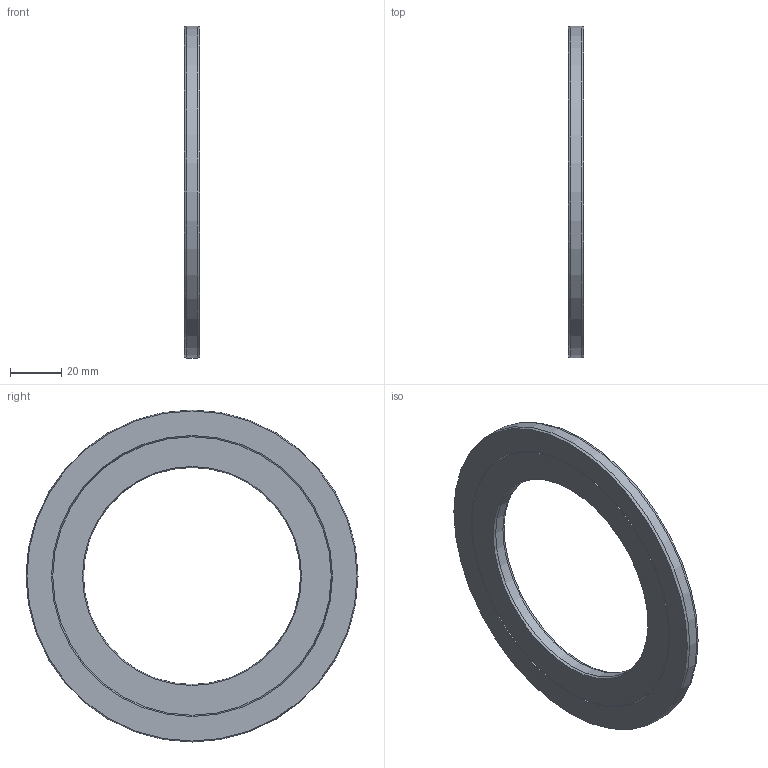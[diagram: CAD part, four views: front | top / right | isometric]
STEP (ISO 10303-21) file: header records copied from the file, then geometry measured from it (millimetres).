
FILE_DESCRIPTION(/* description */ (''),/* implementation_level */ '2;1');
FILE_NAME(/* name */ '307133 CF 6017 S10.stp',/* time_stamp */ '2016-12-16T11:27:09+01:00',/* author */ (''),/* organization */ (''),/* preprocessor_version */ 'ST-DEVELOPER v15',/* originating_system */ 'SIEMENS PLM Software NX 8.5',/* authorisation */ '');
FILE_SCHEMA (('CONFIG_CONTROL_DESIGN'));
Length unit declared in the file: millimetre
Products named in the file (1): ATE0000139_01
Bounding box: 6 x 130 x 130 mm (x, y, z)
Volume: 42937.9 mm3; surface area: 28149.9 mm2
Topology: 2 solids, 2 shells, 26 faces, 46 edges, 28 vertices
Faces by surface type: cone 10, plane 8, cylinder 8
Full cylindrical faces by diameter (mm): 85 x1, 97.5 x1, 98.5 x1, 100 x1, 101 x1, 109 x1, 110 x1, 130 x1
Entity records: 614 total; most frequent: DIRECTION 106, CARTESIAN_POINT 79, AXIS2_PLACEMENT_3D 53, FACE_BOUND 52, EDGE_LOOP 52, ORIENTED_EDGE 52, ADVANCED_FACE 26, VERTEX_POINT 26
